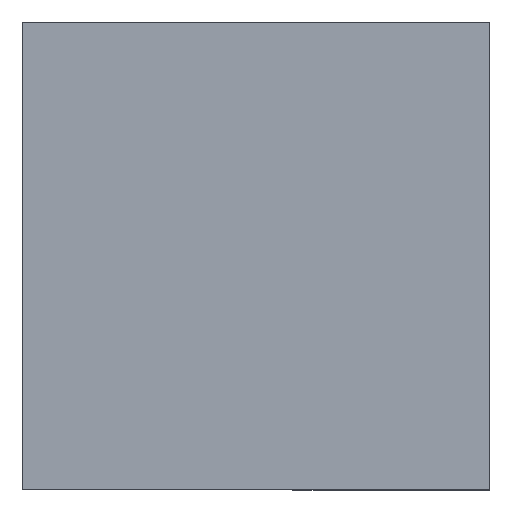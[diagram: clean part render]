
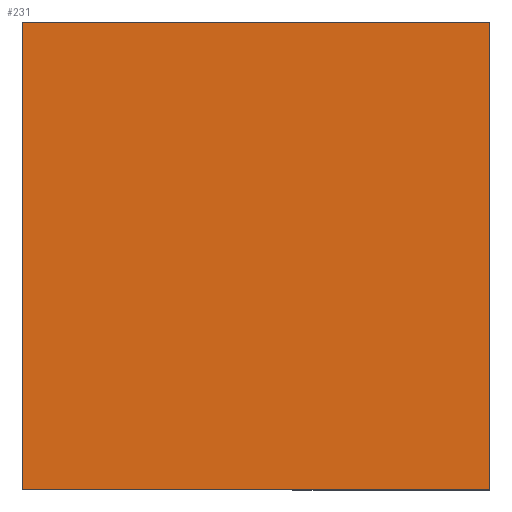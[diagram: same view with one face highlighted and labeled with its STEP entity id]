
A CAD part, top view. The second image highlights one B-rep face of the part: STEP entity #231.
In plain terms, the highlighted planar face has unit normal (0, 0, 1).
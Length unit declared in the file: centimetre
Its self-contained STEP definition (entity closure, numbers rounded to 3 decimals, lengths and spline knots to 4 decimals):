
#12 = CARTESIAN_POINT ( 'NONE',  ( 1000., 1000., 1000. ) ) ;
#18 = EDGE_CURVE ( 'NONE', #92, #578, #372, .T. ) ;
#41 = VECTOR ( 'NONE', #68, 100. ) ;
#44 = EDGE_CURVE ( 'NONE', #393, #92, #110, .T. ) ;
#68 = DIRECTION ( 'NONE',  ( 0., -1., 0. ) ) ;
#92 = VERTEX_POINT ( 'NONE', #356 ) ;
#93 = DIRECTION ( 'NONE',  ( 1., 0., 0. ) ) ;
#102 = EDGE_CURVE ( 'NONE', #517, #393, #258, .T. ) ;
#110 = LINE ( 'NONE', #311, #532 ) ;
#140 = CARTESIAN_POINT ( 'NONE',  ( 1000., 0., 1000. ) ) ;
#147 = CARTESIAN_POINT ( 'NONE',  ( 0., 0., 1000. ) ) ;
#163 = CARTESIAN_POINT ( 'NONE',  ( 0., 1000., 1000. ) ) ;
#181 = EDGE_LOOP ( 'NONE', ( #287, #633, #397, #493 ) ) ;
#205 = DIRECTION ( 'NONE',  ( -1., 0., 0. ) ) ;
#231 = ADVANCED_FACE ( 'NONE', ( #495 ), #547, .T. ) ;
#258 = LINE ( 'NONE', #12, #266 ) ;
#265 = VECTOR ( 'NONE', #406, 100. ) ;
#266 = VECTOR ( 'NONE', #606, 100. ) ;
#287 = ORIENTED_EDGE ( 'NONE', *, *, #18, .T. ) ;
#303 = LINE ( 'NONE', #504, #265 ) ;
#307 = CARTESIAN_POINT ( 'NONE',  ( 1000., 1000., 1000. ) ) ;
#311 = CARTESIAN_POINT ( 'NONE',  ( 0., 1000., 1000. ) ) ;
#349 = CARTESIAN_POINT ( 'NONE',  ( 0., 0., 1000. ) ) ;
#352 = DIRECTION ( 'NONE',  ( 0., 0., 1. ) ) ;
#356 = CARTESIAN_POINT ( 'NONE',  ( 0., 1000., 1000. ) ) ;
#372 = LINE ( 'NONE', #163, #41 ) ;
#393 = VERTEX_POINT ( 'NONE', #307 ) ;
#397 = ORIENTED_EDGE ( 'NONE', *, *, #102, .T. ) ;
#400 = EDGE_CURVE ( 'NONE', #578, #517, #303, .T. ) ;
#406 = DIRECTION ( 'NONE',  ( 1., 0., 0. ) ) ;
#493 = ORIENTED_EDGE ( 'NONE', *, *, #44, .T. ) ;
#495 = FACE_OUTER_BOUND ( 'NONE', #181, .T. ) ;
#504 = CARTESIAN_POINT ( 'NONE',  ( 0., 0., 1000. ) ) ;
#517 = VERTEX_POINT ( 'NONE', #140 ) ;
#532 = VECTOR ( 'NONE', #205, 100. ) ;
#538 = AXIS2_PLACEMENT_3D ( 'NONE', #349, #352, #93 ) ;
#547 = PLANE ( 'NONE',  #538 ) ;
#578 = VERTEX_POINT ( 'NONE', #147 ) ;
#606 = DIRECTION ( 'NONE',  ( 0., 1., 0. ) ) ;
#633 = ORIENTED_EDGE ( 'NONE', *, *, #400, .T. ) ;
